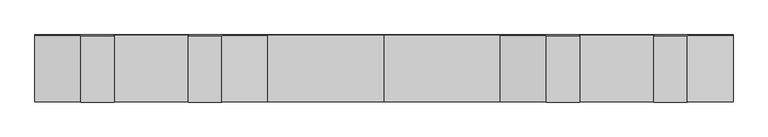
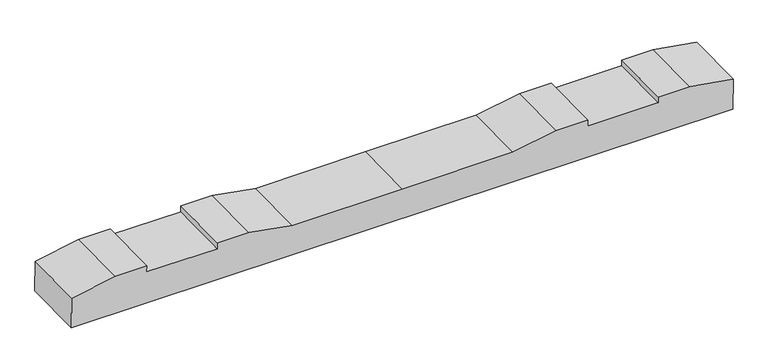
"""IFC4 building model written with IfcOpenShell, lengths in millimetres: proxy geometry, 轨枕-立面角度 : 轨枕-立面角度."""

import ifcopenshell
import ifcopenshell.guid

model = None  # the IFC model being written
_history = None  # IfcOwnerHistory: only IFC2X3 demands one
_inside = {}  # id of a spatial element -> (the spatial element, [elements in it])
_under = {}  # id of a project, library or spatial element -> (it, [spatial elements below it])
_declared = {}  # id of a project -> (the project, [libraries it declares])
_typed = {}  # id of a type object -> (the type object, [elements of that type])
_made_of = {}  # id of a material, layer set ... -> (it, [elements and type objects made of it])


def new_model(schema):
    """Start an empty IFC model of exactly this schema.

    Asked for "IFC4X3", IfcOpenShell would pick the latest addendum, in which some entities
    have other attributes; the version numbers below select the first issue.
    IFC2X3 requires an IfcOwnerHistory on every rooted entity: one is made here for all.
    """
    global model, _history
    if schema == "IFC4X3":
        model = ifcopenshell.file(schema_version=(4, 3, 0, 0))
    else:
        model = ifcopenshell.file(schema=schema)
    _inside.clear()
    _under.clear()
    _declared.clear()
    _typed.clear()
    _made_of.clear()
    _history = None
    if model.schema == "IFC2X3":
        org = make("IfcOrganization", Name="unknown")
        user = make(
            "IfcPersonAndOrganization",
            ThePerson=make("IfcPerson", FamilyName="unknown"),
            TheOrganization=org,
        )
        app = make(
            "IfcApplication",
            ApplicationDeveloper=org,
            Version="unknown",
            ApplicationFullName="unknown",
            ApplicationIdentifier="unknown",
        )
        _history = make(
            "IfcOwnerHistory",
            OwningUser=user,
            OwningApplication=app,
            ChangeAction="ADDED",
            CreationDate=0,
        )
    return model


def make(cls, **values):
    """One entity of the class cls with the attributes given. An attribute that is None is left unset."""
    return model.create_entity(
        cls, **{name: value for name, value in values.items() if value is not None}
    )


def rooted(cls, **values):
    """An entity with a GlobalId (a new one), such as an element, a storey or a relation."""
    return make(cls, GlobalId=ifcopenshell.guid.new(), OwnerHistory=_history, **values)


def si_unit(unit_type, name, prefix=None):
    """IfcSIUnit, for example si_unit("LENGTHUNIT", "METRE", prefix="MILLI")."""
    return make("IfcSIUnit", UnitType=unit_type, Prefix=prefix, Name=name)


def assignment(units):
    """IfcUnitAssignment: the units of a project."""
    return None if units is None else make("IfcUnitAssignment", Units=units)


def point(xyz):
    """IfcCartesianPoint."""
    return None if xyz is None else make("IfcCartesianPoint", Coordinates=xyz)


def direction(xyz):
    """IfcDirection."""
    return None if xyz is None else make("IfcDirection", DirectionRatios=xyz)


def frame(location, z_axis=None, x_axis=None):
    """IfcAxis2Placement3D, a coordinate frame: its origin and axes. An axis left out is left unset."""
    return make(
        "IfcAxis2Placement3D",
        Location=point(location),
        Axis=direction(z_axis),
        RefDirection=direction(x_axis),
    )


def origin():
    """The frame at (0, 0, 0) with its axes left unset."""
    return frame((0.0, 0.0, 0.0))


def place(relative_to, where):
    """IfcLocalPlacement: puts the frame where relative to a parent placement (None: the world)."""
    return make(
        "IfcLocalPlacement", PlacementRelTo=relative_to, RelativePlacement=where
    )


def context(
    kind, dimensions, precision=None, world=None, true_north=None, identifier=None
):
    """IfcGeometricRepresentationContext, for example the 3D "Model" context."""
    return make(
        "IfcGeometricRepresentationContext",
        ContextIdentifier=identifier,
        ContextType=kind,
        CoordinateSpaceDimension=dimensions,
        Precision=precision,
        WorldCoordinateSystem=world,
        TrueNorth=true_north,
    )


def project(units=None, contexts=None):
    """IfcProject with its units and contexts."""
    return rooted(
        "IfcProject",
        Name="project",
        RepresentationContexts=contexts,
        UnitsInContext=assignment(units),
    )


def spatial(cls, under=None, at=None, **own):
    """A site, building, storey or space (cls), placed at a placement, below another one or the project."""
    s = rooted(cls, ObjectPlacement=at, **own)
    if under is not None:
        _under.setdefault(under.id(), (under, []))[1].append(s)
    return s


def polyline(points):
    """IfcPolyline through the points."""
    return make("IfcPolyline", Points=[point(p) for p in points])


def outline(outer, holes=None, kind="AREA"):
    """IfcArbitraryClosedProfileDef: a profile drawn as a closed curve; with holes, ...WithVoids."""
    if holes is None:
        return make("IfcArbitraryClosedProfileDef", ProfileType=kind, OuterCurve=outer)
    return make(
        "IfcArbitraryProfileDefWithVoids",
        ProfileType=kind,
        OuterCurve=outer,
        InnerCurves=holes,
    )


def extrude(swept, where, along, depth):
    """IfcExtrudedAreaSolid: the profile swept, set in the frame where, extruded along a direction by depth."""
    return make(
        "IfcExtrudedAreaSolid",
        SweptArea=swept,
        Position=where,
        ExtrudedDirection=direction(along),
        Depth=depth,
    )


def shape(context_of_items, identifier, shape_type, items):
    """IfcShapeRepresentation: the items that make up one representation, for example the "Body"."""
    return make(
        "IfcShapeRepresentation",
        ContextOfItems=context_of_items,
        RepresentationIdentifier=identifier,
        RepresentationType=shape_type,
        Items=items,
    )


def source(mapping_origin, context_of_items, identifier, shape_type, items):
    """IfcRepresentationMap: a shape defined once, which mapped items show again and again."""
    return make(
        "IfcRepresentationMap",
        MappingOrigin=mapping_origin,
        MappedRepresentation=shape(context_of_items, identifier, shape_type, items),
    )


def transform(
    local_origin,
    x_axis=None,
    y_axis=None,
    z_axis=None,
    scale=None,
    scale2=None,
    scale3=None,
    uniform=True,
):
    """IfcCartesianTransformationOperator3D, or its non-uniform kind. x_axis, y_axis, z_axis: its Axis1, 2, 3."""
    if uniform:
        return make(
            "IfcCartesianTransformationOperator3D",
            Axis1=direction(x_axis),
            Axis2=direction(y_axis),
            LocalOrigin=point(local_origin),
            Scale=scale,
            Axis3=direction(z_axis),
        )
    return make(
        "IfcCartesianTransformationOperator3DnonUniform",
        Axis1=direction(x_axis),
        Axis2=direction(y_axis),
        LocalOrigin=point(local_origin),
        Scale=scale,
        Axis3=direction(z_axis),
        Scale2=scale2,
        Scale3=scale3,
    )


def mapped(mapping_source, mapping_target):
    """IfcMappedItem: shows the shape of a source again, moved by a transform."""
    return make(
        "IfcMappedItem", MappingSource=mapping_source, MappingTarget=mapping_target
    )


def made_of(thing, what):
    """Note that an element or type object is made of a material, layer set ...; save() writes the relation."""
    if what is not None:
        _made_of.setdefault(what.id(), (what, []))[1].append(thing)
    return thing


def element(
    cls,
    number,
    at=None,
    inside=None,
    cuts=None,
    type_object=None,
    material=None,
    context=None,
    identifier="Body",
    shape_type=None,
    held_by="IfcProductDefinitionShape",
    body=None,
    shapes=None,
    **own,
):
    """One element of the class cls, such as IfcWall. Its Tag is "e" and its number.

    at: its placement. inside: the storey or other place that contains it. cuts: it is an
    opening in that element (IfcRelVoidsElement). A single representation is given by context,
    identifier, shape_type and body (its items); several are given by shapes. held_by: the class
    of the entity that holds the representations. save() writes the other relations.
    """
    e = rooted(cls, Tag="e%d" % number, ObjectPlacement=at, **own)
    if body is not None:
        shapes = [shape(context, identifier, shape_type, body)]
    if shapes is not None:
        e.Representation = make(held_by, Representations=shapes)
    if inside is not None:
        _inside.setdefault(inside.id(), (inside, []))[1].append(e)
    if cuts is not None:
        rooted(
            "IfcRelVoidsElement", RelatingBuildingElement=cuts, RelatedOpeningElement=e
        )
    if type_object is not None:
        _typed.setdefault(type_object.id(), (type_object, []))[1].append(e)
    return made_of(e, material)


def aggregate(whole, parts):
    """IfcRelAggregates: a whole, such as a stair, and the parts it consists of."""
    return rooted("IfcRelAggregates", RelatingObject=whole, RelatedObjects=parts)


def save(model, path):
    """Write the relations noted so far, then the file.

    IfcRelAggregates (storeys below a building ...), IfcRelContainedInSpatialStructure (elements
    in a storey), IfcRelDefinesByType, IfcRelAssociatesMaterial and IfcRelDeclares: one each for
    every whole, place, type object, material and project.
    """
    for whole, parts in _under.values():
        aggregate(whole, parts)
    for where, things in _inside.values():
        rooted(
            "IfcRelContainedInSpatialStructure",
            RelatedElements=things,
            RelatingStructure=where,
        )
    for kind, things in _typed.values():
        rooted("IfcRelDefinesByType", RelatedObjects=things, RelatingType=kind)
    for what, things in _made_of.values():
        rooted("IfcRelAssociatesMaterial", RelatedObjects=things, RelatingMaterial=what)
    for by, libraries in _declared.values():
        rooted("IfcRelDeclares", RelatingContext=by, RelatedDefinitions=libraries)
    model.write(path)


def generic_models_936076ed(model_context):
    return source(origin(), model_context, "Body", "SweptSolid", [
        extrude(outline(polyline([(0.0, 0.0), (2099.7669328, 0.0), (2099.7669328, -100.0206889), (1961.8834664, -124.5), (1861.8834664, -124.5), (1861.8834664, -104.4999999), (1637.8834664, -104.4999999), (1637.8834664, -124.5), (1537.8834664, -124.5), (1399.8834664, -99.9999999), (1049.8834664, -99.9999999), (699.8834664, -99.9999999), (561.8834664, -124.5), (461.8834664, -124.5), (461.8834664, -104.4999999), (237.8834664, -104.4999999), (237.8834664, -124.5), (137.8834664, -124.5), (0.0, -100.0206889), (0.0, 0.0)])), frame((-1049.8834664, -98.4627454, -105.9496945), z_axis=(0.0, 0.9998932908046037, 0.014608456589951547), x_axis=(1.0, 0.0, 0.0)), (0.0, 0.0, 1.0), 200.0),
    ])


if __name__ == "__main__":
    model = new_model("IFC4")
    model_context = context("Model", 3, world=origin())
    ifc_project = project(units=[si_unit("LENGTHUNIT", "METRE", prefix="MILLI")], contexts=[model_context])
    site = spatial("IfcSite", under=ifc_project)
    building = spatial("IfcBuilding", under=site)
    placement = place(None, origin())
    generic_models_shape = generic_models_936076ed(model_context)
    element("IfcBuildingElementProxy", 1, Name="轨枕-立面角度 : 轨枕-立面角度", ObjectType="轨枕-立面角度 : 轨枕-立面角度", at=placement, inside=building, context=model_context, shape_type="MappedRepresentation", body=[
        mapped(generic_models_shape, transform((0.0, 0.0, 0.0), x_axis=(1.0, 0.0, 0.0), y_axis=(0.0, 1.0, 0.0), z_axis=(0.0, 0.0, 1.0))),
    ])
    save(model, "model.ifc")
